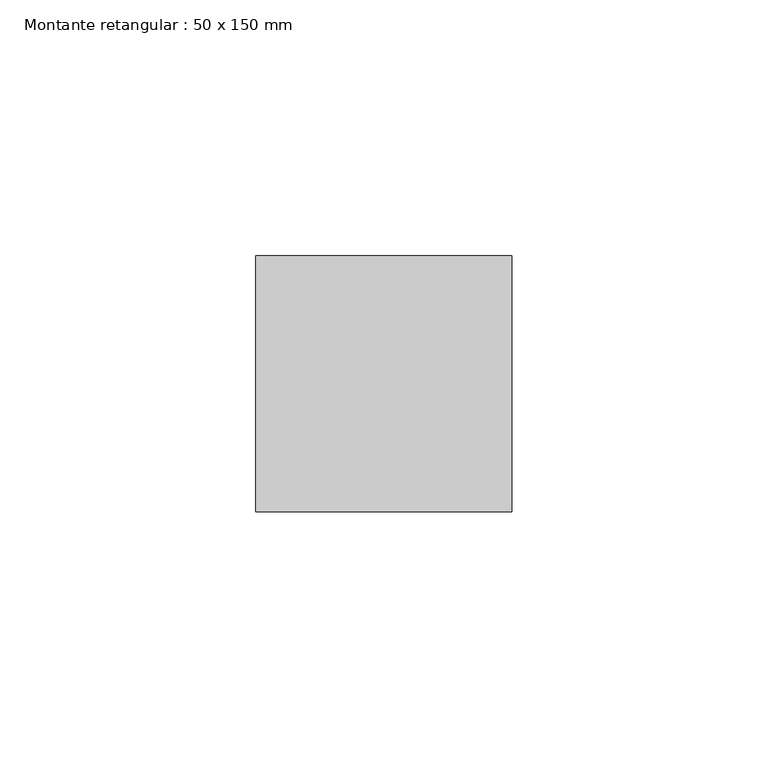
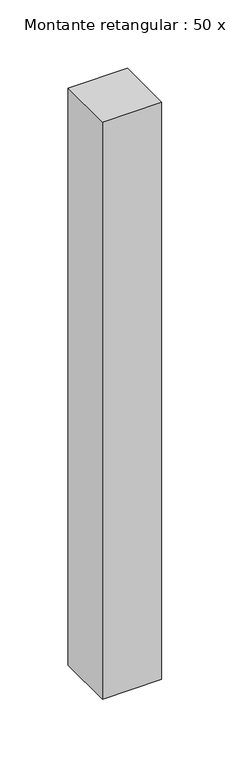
"""IFC4 building model written with IfcOpenShell, lengths in millimetres: member geometry, Montante retangular : 50 x 150 mm."""

import ifcopenshell
import ifcopenshell.guid

model = None  # the IFC model being written
_history = None  # IfcOwnerHistory: only IFC2X3 demands one
_inside = {}  # id of a spatial element -> (the spatial element, [elements in it])
_under = {}  # id of a project, library or spatial element -> (it, [spatial elements below it])
_declared = {}  # id of a project -> (the project, [libraries it declares])
_typed = {}  # id of a type object -> (the type object, [elements of that type])
_made_of = {}  # id of a material, layer set ... -> (it, [elements and type objects made of it])


def new_model(schema):
    """Start an empty IFC model of exactly this schema.

    Asked for "IFC4X3", IfcOpenShell would pick the latest addendum, in which some entities
    have other attributes; the version numbers below select the first issue.
    IFC2X3 requires an IfcOwnerHistory on every rooted entity: one is made here for all.
    """
    global model, _history
    if schema == "IFC4X3":
        model = ifcopenshell.file(schema_version=(4, 3, 0, 0))
    else:
        model = ifcopenshell.file(schema=schema)
    _inside.clear()
    _under.clear()
    _declared.clear()
    _typed.clear()
    _made_of.clear()
    _history = None
    if model.schema == "IFC2X3":
        org = make("IfcOrganization", Name="unknown")
        user = make(
            "IfcPersonAndOrganization",
            ThePerson=make("IfcPerson", FamilyName="unknown"),
            TheOrganization=org,
        )
        app = make(
            "IfcApplication",
            ApplicationDeveloper=org,
            Version="unknown",
            ApplicationFullName="unknown",
            ApplicationIdentifier="unknown",
        )
        _history = make(
            "IfcOwnerHistory",
            OwningUser=user,
            OwningApplication=app,
            ChangeAction="ADDED",
            CreationDate=0,
        )
    return model


def make(cls, **values):
    """One entity of the class cls with the attributes given. An attribute that is None is left unset."""
    return model.create_entity(
        cls, **{name: value for name, value in values.items() if value is not None}
    )


def rooted(cls, **values):
    """An entity with a GlobalId (a new one), such as an element, a storey or a relation."""
    return make(cls, GlobalId=ifcopenshell.guid.new(), OwnerHistory=_history, **values)


def si_unit(unit_type, name, prefix=None):
    """IfcSIUnit, for example si_unit("LENGTHUNIT", "METRE", prefix="MILLI")."""
    return make("IfcSIUnit", UnitType=unit_type, Prefix=prefix, Name=name)


def assignment(units):
    """IfcUnitAssignment: the units of a project."""
    return None if units is None else make("IfcUnitAssignment", Units=units)


def point(xyz):
    """IfcCartesianPoint."""
    return None if xyz is None else make("IfcCartesianPoint", Coordinates=xyz)


def direction(xyz):
    """IfcDirection."""
    return None if xyz is None else make("IfcDirection", DirectionRatios=xyz)


def frame(location, z_axis=None, x_axis=None):
    """IfcAxis2Placement3D, a coordinate frame: its origin and axes. An axis left out is left unset."""
    return make(
        "IfcAxis2Placement3D",
        Location=point(location),
        Axis=direction(z_axis),
        RefDirection=direction(x_axis),
    )


def origin():
    """The frame at (0, 0, 0) with its axes left unset."""
    return frame((0.0, 0.0, 0.0))


def place(relative_to, where):
    """IfcLocalPlacement: puts the frame where relative to a parent placement (None: the world)."""
    return make(
        "IfcLocalPlacement", PlacementRelTo=relative_to, RelativePlacement=where
    )


def context(
    kind, dimensions, precision=None, world=None, true_north=None, identifier=None
):
    """IfcGeometricRepresentationContext, for example the 3D "Model" context."""
    return make(
        "IfcGeometricRepresentationContext",
        ContextIdentifier=identifier,
        ContextType=kind,
        CoordinateSpaceDimension=dimensions,
        Precision=precision,
        WorldCoordinateSystem=world,
        TrueNorth=true_north,
    )


def project(units=None, contexts=None):
    """IfcProject with its units and contexts."""
    return rooted(
        "IfcProject",
        Name="project",
        RepresentationContexts=contexts,
        UnitsInContext=assignment(units),
    )


def spatial(cls, under=None, at=None, **own):
    """A site, building, storey or space (cls), placed at a placement, below another one or the project."""
    s = rooted(cls, ObjectPlacement=at, **own)
    if under is not None:
        _under.setdefault(under.id(), (under, []))[1].append(s)
    return s


def polyline(points):
    """IfcPolyline through the points."""
    return make("IfcPolyline", Points=[point(p) for p in points])


def outline(outer, holes=None, kind="AREA"):
    """IfcArbitraryClosedProfileDef: a profile drawn as a closed curve; with holes, ...WithVoids."""
    if holes is None:
        return make("IfcArbitraryClosedProfileDef", ProfileType=kind, OuterCurve=outer)
    return make(
        "IfcArbitraryProfileDefWithVoids",
        ProfileType=kind,
        OuterCurve=outer,
        InnerCurves=holes,
    )


def extrude(swept, where, along, depth):
    """IfcExtrudedAreaSolid: the profile swept, set in the frame where, extruded along a direction by depth."""
    return make(
        "IfcExtrudedAreaSolid",
        SweptArea=swept,
        Position=where,
        ExtrudedDirection=direction(along),
        Depth=depth,
    )


def shape(context_of_items, identifier, shape_type, items):
    """IfcShapeRepresentation: the items that make up one representation, for example the "Body"."""
    return make(
        "IfcShapeRepresentation",
        ContextOfItems=context_of_items,
        RepresentationIdentifier=identifier,
        RepresentationType=shape_type,
        Items=items,
    )


def source(mapping_origin, context_of_items, identifier, shape_type, items):
    """IfcRepresentationMap: a shape defined once, which mapped items show again and again."""
    return make(
        "IfcRepresentationMap",
        MappingOrigin=mapping_origin,
        MappedRepresentation=shape(context_of_items, identifier, shape_type, items),
    )


def transform(
    local_origin,
    x_axis=None,
    y_axis=None,
    z_axis=None,
    scale=None,
    scale2=None,
    scale3=None,
    uniform=True,
):
    """IfcCartesianTransformationOperator3D, or its non-uniform kind. x_axis, y_axis, z_axis: its Axis1, 2, 3."""
    if uniform:
        return make(
            "IfcCartesianTransformationOperator3D",
            Axis1=direction(x_axis),
            Axis2=direction(y_axis),
            LocalOrigin=point(local_origin),
            Scale=scale,
            Axis3=direction(z_axis),
        )
    return make(
        "IfcCartesianTransformationOperator3DnonUniform",
        Axis1=direction(x_axis),
        Axis2=direction(y_axis),
        LocalOrigin=point(local_origin),
        Scale=scale,
        Axis3=direction(z_axis),
        Scale2=scale2,
        Scale3=scale3,
    )


def mapped(mapping_source, mapping_target):
    """IfcMappedItem: shows the shape of a source again, moved by a transform."""
    return make(
        "IfcMappedItem", MappingSource=mapping_source, MappingTarget=mapping_target
    )


def made_of(thing, what):
    """Note that an element or type object is made of a material, layer set ...; save() writes the relation."""
    if what is not None:
        _made_of.setdefault(what.id(), (what, []))[1].append(thing)
    return thing


def element(
    cls,
    number,
    at=None,
    inside=None,
    cuts=None,
    type_object=None,
    material=None,
    context=None,
    identifier="Body",
    shape_type=None,
    held_by="IfcProductDefinitionShape",
    body=None,
    shapes=None,
    **own,
):
    """One element of the class cls, such as IfcWall. Its Tag is "e" and its number.

    at: its placement. inside: the storey or other place that contains it. cuts: it is an
    opening in that element (IfcRelVoidsElement). A single representation is given by context,
    identifier, shape_type and body (its items); several are given by shapes. held_by: the class
    of the entity that holds the representations. save() writes the other relations.
    """
    e = rooted(cls, Tag="e%d" % number, ObjectPlacement=at, **own)
    if body is not None:
        shapes = [shape(context, identifier, shape_type, body)]
    if shapes is not None:
        e.Representation = make(held_by, Representations=shapes)
    if inside is not None:
        _inside.setdefault(inside.id(), (inside, []))[1].append(e)
    if cuts is not None:
        rooted(
            "IfcRelVoidsElement", RelatingBuildingElement=cuts, RelatedOpeningElement=e
        )
    if type_object is not None:
        _typed.setdefault(type_object.id(), (type_object, []))[1].append(e)
    return made_of(e, material)


def aggregate(whole, parts):
    """IfcRelAggregates: a whole, such as a stair, and the parts it consists of."""
    return rooted("IfcRelAggregates", RelatingObject=whole, RelatedObjects=parts)


def save(model, path):
    """Write the relations noted so far, then the file.

    IfcRelAggregates (storeys below a building ...), IfcRelContainedInSpatialStructure (elements
    in a storey), IfcRelDefinesByType, IfcRelAssociatesMaterial and IfcRelDeclares: one each for
    every whole, place, type object, material and project.
    """
    for whole, parts in _under.values():
        aggregate(whole, parts)
    for where, things in _inside.values():
        rooted(
            "IfcRelContainedInSpatialStructure",
            RelatedElements=things,
            RelatingStructure=where,
        )
    for kind, things in _typed.values():
        rooted("IfcRelDefinesByType", RelatedObjects=things, RelatingType=kind)
    for what, things in _made_of.values():
        rooted("IfcRelAssociatesMaterial", RelatedObjects=things, RelatingMaterial=what)
    for by, libraries in _declared.values():
        rooted("IfcRelDeclares", RelatingContext=by, RelatedDefinitions=libraries)
    model.write(path)


def montante_retangular_50_x_150_mm_1e3e1476(model_context):
    return source(origin(), model_context, "Body", "SweptSolid", [
        extrude(outline(polyline([(25.0, 25.0), (25.0, -25.0), (-25.0, -25.0), (-25.0, 25.0), (25.0, 25.0)])), frame((0.0, 0.0, -515.0), z_axis=(0.0, 0.0, 1.0), x_axis=(1.0, 0.0, 0.0)), (0.0, 0.0, 1.0), 515.0),
    ])


if __name__ == "__main__":
    model = new_model("IFC4")
    model_context = context("Model", 3, world=origin())
    ifc_project = project(units=[si_unit("LENGTHUNIT", "METRE", prefix="MILLI")], contexts=[model_context])
    site = spatial("IfcSite", under=ifc_project)
    building = spatial("IfcBuilding", under=site)
    placement = place(None, origin())
    montante_retangular_50_x_150_mm_shape = montante_retangular_50_x_150_mm_1e3e1476(model_context)
    element("IfcMember", 1, ObjectType="Montante retangular : 50 x 150 mm", at=placement, inside=building, context=model_context, shape_type="MappedRepresentation", body=[
        mapped(montante_retangular_50_x_150_mm_shape, transform((0.0, 0.0, 0.0), x_axis=(1.0, 0.0, 0.0), y_axis=(0.0, 1.0, 0.0), z_axis=(0.0, 0.0, 1.0))),
    ])
    save(model, "model.ifc")
